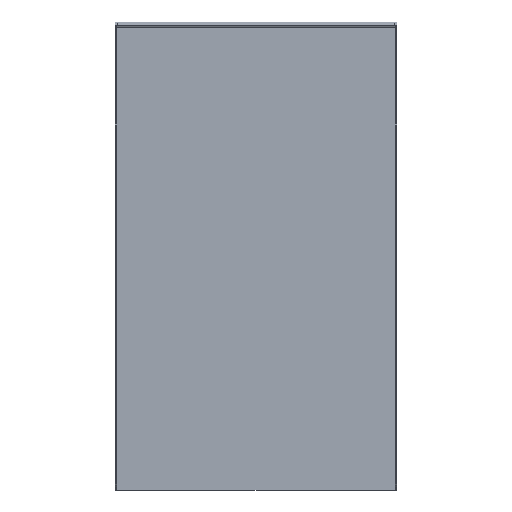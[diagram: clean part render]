
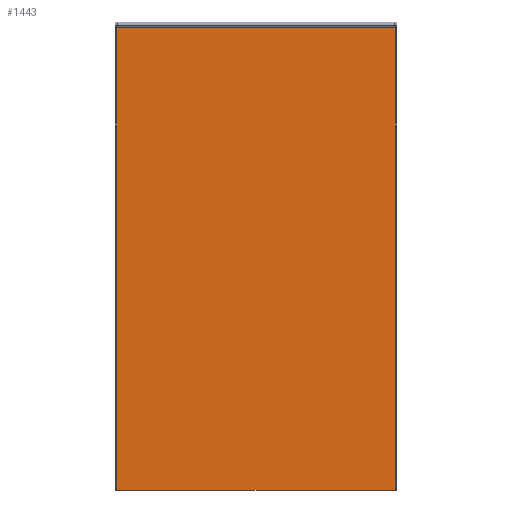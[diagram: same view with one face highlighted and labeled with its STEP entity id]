
A CAD part, front view. The second image highlights one B-rep face of the part: STEP entity #1443.
In plain terms, the highlighted planar face has unit normal (0, -1, 0).
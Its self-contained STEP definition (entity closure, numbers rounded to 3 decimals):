
#24 = VERTEX_POINT ( 'NONE', #61 ) ;
#29 = DIRECTION ( 'NONE',  ( 0., 0., -1. ) ) ;
#61 = CARTESIAN_POINT ( 'NONE',  ( -497., 0., -297. ) ) ;
#178 = ORIENTED_EDGE ( 'NONE', *, *, #1353, .F. ) ;
#318 = DIRECTION ( 'NONE',  ( 0., -1., 0. ) ) ;
#379 = LINE ( 'NONE', #1536, #1617 ) ;
#449 = VECTOR ( 'NONE', #643, 1000. ) ;
#495 = CARTESIAN_POINT ( 'NONE',  ( -497., 0., 297. ) ) ;
#533 = VERTEX_POINT ( 'NONE', #974 ) ;
#574 = ORIENTED_EDGE ( 'NONE', *, *, #1102, .F. ) ;
#615 = VERTEX_POINT ( 'NONE', #1696 ) ;
#643 = DIRECTION ( 'NONE',  ( 0., 0., 1. ) ) ;
#740 = LINE ( 'NONE', #1312, #959 ) ;
#765 = PLANE ( 'NONE',  #811 ) ;
#781 = EDGE_LOOP ( 'NONE', ( #1339, #574, #1237, #178 ) ) ;
#811 = AXIS2_PLACEMENT_3D ( 'NONE', #1338, #318, #29 ) ;
#892 = DIRECTION ( 'NONE',  ( -1., 0., 0. ) ) ;
#927 = VECTOR ( 'NONE', #1667, 1000. ) ;
#941 = DIRECTION ( 'NONE',  ( 0., 0., -1. ) ) ;
#945 = LINE ( 'NONE', #495, #449 ) ;
#959 = VECTOR ( 'NONE', #892, 1000. ) ;
#974 = CARTESIAN_POINT ( 'NONE',  ( -497., 0., 297. ) ) ;
#1066 = FACE_OUTER_BOUND ( 'NONE', #781, .T. ) ;
#1102 = EDGE_CURVE ( 'NONE', #533, #1526, #1556, .T. ) ;
#1229 = CARTESIAN_POINT ( 'NONE',  ( 497., 0., 297. ) ) ;
#1237 = ORIENTED_EDGE ( 'NONE', *, *, #1750, .F. ) ;
#1312 = CARTESIAN_POINT ( 'NONE',  ( -497., 0., -297. ) ) ;
#1338 = CARTESIAN_POINT ( 'NONE',  ( 0., 0., 0. ) ) ;
#1339 = ORIENTED_EDGE ( 'NONE', *, *, #1608, .F. ) ;
#1353 = EDGE_CURVE ( 'NONE', #615, #24, #740, .T. ) ;
#1443 = ADVANCED_FACE ( 'NONE', ( #1066 ), #765, .T. ) ;
#1526 = VERTEX_POINT ( 'NONE', #1229 ) ;
#1536 = CARTESIAN_POINT ( 'NONE',  ( 497., 0., 297. ) ) ;
#1556 = LINE ( 'NONE', #1800, #927 ) ;
#1608 = EDGE_CURVE ( 'NONE', #1526, #615, #379, .T. ) ;
#1617 = VECTOR ( 'NONE', #941, 1000. ) ;
#1667 = DIRECTION ( 'NONE',  ( 1., 0., 0. ) ) ;
#1696 = CARTESIAN_POINT ( 'NONE',  ( 497., 0., -297. ) ) ;
#1750 = EDGE_CURVE ( 'NONE', #24, #533, #945, .T. ) ;
#1800 = CARTESIAN_POINT ( 'NONE',  ( -497., 0., 297. ) ) ;
